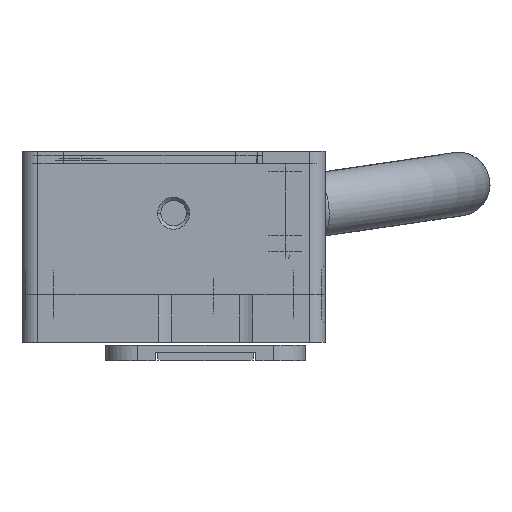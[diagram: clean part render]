
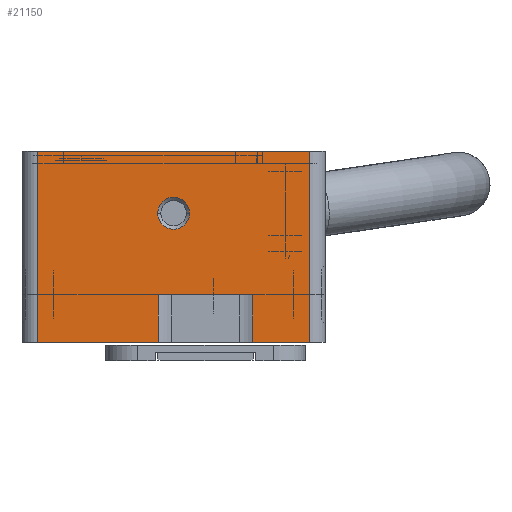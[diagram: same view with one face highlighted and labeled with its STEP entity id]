
A CAD part, left-side view. The second image highlights one B-rep face of the part: STEP entity #21150.
In plain terms, the highlighted planar face has unit normal (-1, 0, 0).
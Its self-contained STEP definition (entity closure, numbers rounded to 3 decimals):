
#2790=CARTESIAN_POINT('',(-46.,17.8,0.));
#2800=VERTEX_POINT('',#2790);
#2830=CARTESIAN_POINT('',(-46.,17.8,-6.));
#2840=DIRECTION('',(0.,0.,-1.));
#2850=VECTOR('',#2840,1.);
#2860=LINE('',#2830,#2850);
#2870=CARTESIAN_POINT('',(-46.,17.8,-12.));
#2880=VERTEX_POINT('',#2870);
#2890=EDGE_CURVE('',#2800,#2880,#2860,.T.);
#8410=CARTESIAN_POINT('',(-46.,14.272,-3.));
#8420=VERTEX_POINT('',#8410);
#8450=CARTESIAN_POINT('',(-46.,14.272,-3.006));
#8460=DIRECTION('',(0.,0.,1.));
#8470=VECTOR('',#8460,1.);
#8480=LINE('',#8450,#8470);
#8490=CARTESIAN_POINT('',(-46.,14.272,0.));
#8500=VERTEX_POINT('',#8490);
#8510=EDGE_CURVE('',#8420,#8500,#8480,.T.);
#12650=CARTESIAN_POINT('',(-46.,8.328,-3.));
#12660=VERTEX_POINT('',#12650);
#12690=CARTESIAN_POINT('',(-46.,0.,-3.));
#12700=DIRECTION('',(0.,1.,0.));
#12710=VECTOR('',#12700,1.);
#12720=LINE('',#12690,#12710);
#12730=EDGE_CURVE('',#12660,#8420,#12720,.T.);
#15360=CARTESIAN_POINT('',(-46.,0.8,0.));
#15370=VERTEX_POINT('',#15360);
#15400=CARTESIAN_POINT('',(-46.,0.,0.));
#15410=DIRECTION('',(0.,1.,0.));
#15420=VECTOR('',#15410,1.);
#15430=LINE('',#15400,#15420);
#15440=CARTESIAN_POINT('',(-46.,8.328,0.));
#15450=VERTEX_POINT('',#15440);
#15460=EDGE_CURVE('',#15370,#15450,#15430,.T.);
#15640=EDGE_CURVE('',#8500,#2800,#15430,.T.);
#18310=CARTESIAN_POINT('',(-46.,0.,-12.));
#18320=DIRECTION('',(0.,1.,0.));
#18330=VECTOR('',#18320,1.);
#18340=LINE('',#18310,#18330);
#18350=CARTESIAN_POINT('',(-46.,0.8,-12.));
#18360=VERTEX_POINT('',#18350);
#18370=EDGE_CURVE('',#18360,#2880,#18340,.T.);
#20030=CARTESIAN_POINT('',(-46.,8.328,-3.006));
#20040=DIRECTION('',(0.,0.,1.));
#20050=VECTOR('',#20040,1.);
#20060=LINE('',#20030,#20050);
#20070=EDGE_CURVE('',#12660,#15450,#20060,.T.);
#20760=CARTESIAN_POINT('',(-46.,17.8,-6.));
#20770=DIRECTION('',(-1.,0.,0.));
#20780=DIRECTION('',(0.,-1.,0.));
#20790=AXIS2_PLACEMENT_3D('',#20760,#20770,#20780);
#20800=PLANE('',#20790);
#20810=ORIENTED_EDGE('',*,*,#15640,.T.);
#20820=ORIENTED_EDGE('',*,*,#8510,.T.);
#20830=ORIENTED_EDGE('',*,*,#12730,.T.);
#20840=ORIENTED_EDGE('',*,*,#20070,.F.);
#20850=ORIENTED_EDGE('',*,*,#15460,.T.);
#20860=CARTESIAN_POINT('',(-46.,0.8,0.));
#20870=DIRECTION('',(0.,0.,-1.));
#20880=VECTOR('',#20870,1.);
#20890=LINE('',#20860,#20880);
#20900=EDGE_CURVE('',#15370,#18360,#20890,.T.);
#20910=ORIENTED_EDGE('',*,*,#20900,.F.);
#20920=ORIENTED_EDGE('',*,*,#18370,.F.);
#20930=ORIENTED_EDGE('',*,*,#2890,.T.);
#20940=EDGE_LOOP('',(#20930,#20920,#20910,#20850,#20840,#20830,#20820,
#20810));
#20950=FACE_OUTER_BOUND('',#20940,.T.);
#20960=CARTESIAN_POINT('',(-46.,9.3,-8.1));
#20970=DIRECTION('',(-1.,0.,0.));
#20980=DIRECTION('',(0.,-1.,0.));
#20990=AXIS2_PLACEMENT_3D('',#20960,#20970,#20980);
#21000=CIRCLE('',#20990,1.);
#21010=CARTESIAN_POINT('',(-46.,8.307,-8.214));
#21020=VERTEX_POINT('',#21010);
#21030=CARTESIAN_POINT('',(-46.,8.3,-8.1));
#21040=VERTEX_POINT('',#21030);
#21050=EDGE_CURVE('',#21020,#21040,#21000,.T.);
#21060=ORIENTED_EDGE('',*,*,#21050,.F.);
#21070=CARTESIAN_POINT('',(-46.,10.3,-8.1));
#21080=VERTEX_POINT('',#21070);
#21090=EDGE_CURVE('',#21040,#21080,#21000,.T.);
#21100=ORIENTED_EDGE('',*,*,#21090,.F.);
#21110=EDGE_CURVE('',#21080,#21020,#21000,.T.);
#21120=ORIENTED_EDGE('',*,*,#21110,.F.);
#21130=EDGE_LOOP('',(#21120,#21100,#21060));
#21140=FACE_BOUND('',#21130,.T.);
#21150=ADVANCED_FACE('',(#20950,#21140),#20800,.T.);
